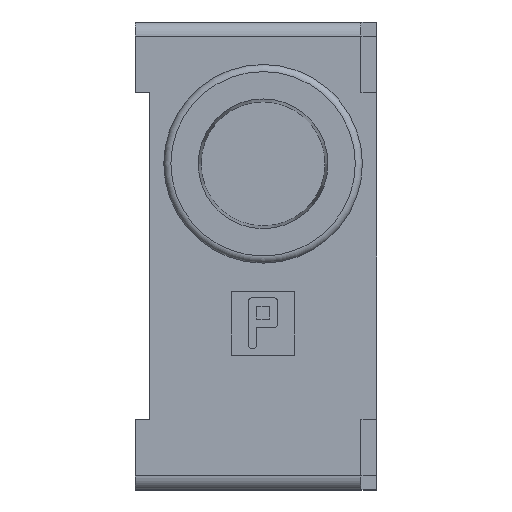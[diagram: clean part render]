
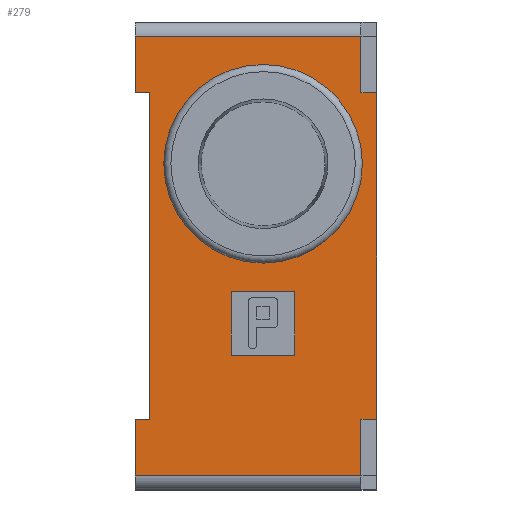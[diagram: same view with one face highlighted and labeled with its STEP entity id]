
A CAD part, left-side view. The second image highlights one B-rep face of the part: STEP entity #279.
In plain terms, the highlighted planar face has unit normal (-1, 0, 0).
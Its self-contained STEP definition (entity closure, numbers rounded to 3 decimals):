
#279=ADVANCED_FACE('',(#632,#633,#634),#635,.F.);
#632=FACE_BOUND('',#1213,.T.);
#633=FACE_OUTER_BOUND('',#1214,.T.);
#634=FACE_BOUND('',#1215,.T.);
#635=PLANE('',#1216);
#1213=EDGE_LOOP('',(#2249));
#1214=EDGE_LOOP('',(#2250,#2251,#2252,#2253,#2254,#2255,#2256,#2257,#2258,#2259,#2260,#2261));
#1215=EDGE_LOOP('',(#2262,#2263,#2264,#2265));
#1216=AXIS2_PLACEMENT_3D('',#2266,#2267,#2268);
#2249=ORIENTED_EDGE('',*,*,#4042,.F.);
#2250=ORIENTED_EDGE('',*,*,#4043,.F.);
#2251=ORIENTED_EDGE('',*,*,#4044,.T.);
#2252=ORIENTED_EDGE('',*,*,#3941,.T.);
#2253=ORIENTED_EDGE('',*,*,#4045,.F.);
#2254=ORIENTED_EDGE('',*,*,#4046,.T.);
#2255=ORIENTED_EDGE('',*,*,#3892,.T.);
#2256=ORIENTED_EDGE('',*,*,#4047,.F.);
#2257=ORIENTED_EDGE('',*,*,#4048,.F.);
#2258=ORIENTED_EDGE('',*,*,#3932,.T.);
#2259=ORIENTED_EDGE('',*,*,#4049,.T.);
#2260=ORIENTED_EDGE('',*,*,#4050,.T.);
#2261=ORIENTED_EDGE('',*,*,#3901,.F.);
#2262=ORIENTED_EDGE('',*,*,#3974,.T.);
#2263=ORIENTED_EDGE('',*,*,#3978,.T.);
#2264=ORIENTED_EDGE('',*,*,#4051,.T.);
#2265=ORIENTED_EDGE('',*,*,#4052,.T.);
#2266=CARTESIAN_POINT('',(9.0,13.556,44.778));
#2267=DIRECTION('',(1.0,0.0,0.0));
#2268=DIRECTION('',(0.0,0.0,-1.0));
#3892=EDGE_CURVE('',#4665,#4663,#4666,.T.);
#3901=EDGE_CURVE('',#4680,#4682,#4683,.T.);
#3932=EDGE_CURVE('',#4744,#4742,#4745,.T.);
#3941=EDGE_CURVE('',#4760,#4761,#4762,.F.);
#3974=EDGE_CURVE('',#4812,#4813,#4814,.T.);
#3978=EDGE_CURVE('',#4813,#4820,#4821,.T.);
#4042=EDGE_CURVE('',#4919,#4919,#4920,.T.);
#4043=EDGE_CURVE('',#4921,#4680,#4922,.T.);
#4044=EDGE_CURVE('',#4921,#4760,#4923,.T.);
#4045=EDGE_CURVE('',#4924,#4761,#4925,.T.);
#4046=EDGE_CURVE('',#4924,#4665,#4926,.T.);
#4047=EDGE_CURVE('',#4927,#4663,#4928,.T.);
#4048=EDGE_CURVE('',#4744,#4927,#4929,.T.);
#4049=EDGE_CURVE('',#4742,#4930,#4931,.T.);
#4050=EDGE_CURVE('',#4930,#4682,#4932,.T.);
#4051=EDGE_CURVE('',#4820,#4933,#4934,.T.);
#4052=EDGE_CURVE('',#4933,#4812,#4935,.T.);
#4663=VERTEX_POINT('',#6188);
#4665=VERTEX_POINT('',#6191);
#4666=LINE('',#6192,#6193);
#4680=VERTEX_POINT('',#6213);
#4682=VERTEX_POINT('',#6216);
#4683=LINE('',#6217,#6218);
#4742=VERTEX_POINT('',#6302);
#4744=VERTEX_POINT('',#6304);
#4745=LINE('',#6305,#6306);
#4760=VERTEX_POINT('',#6324);
#4761=VERTEX_POINT('',#6325);
#4762=LINE('',#6326,#6327);
#4812=VERTEX_POINT('',#6437);
#4813=VERTEX_POINT('',#6438);
#4814=LINE('',#6439,#6440);
#4820=VERTEX_POINT('',#6449);
#4821=LINE('',#6450,#6451);
#4919=VERTEX_POINT('',#6646);
#4920=CIRCLE('',#6647,7.0);
#4921=VERTEX_POINT('',#6648);
#4922=LINE('',#6649,#6650);
#4923=LINE('',#6651,#6652);
#4924=VERTEX_POINT('',#6653);
#4925=LINE('',#6654,#6655);
#4926=LINE('',#6656,#6657);
#4927=VERTEX_POINT('',#6658);
#4928=LINE('',#6659,#6660);
#4929=LINE('',#6661,#6662);
#4930=VERTEX_POINT('',#6663);
#4931=LINE('',#6664,#6665);
#4932=LINE('',#6666,#6667);
#4933=VERTEX_POINT('',#6668);
#4934=LINE('',#6669,#6670);
#4935=LINE('',#6671,#6672);
#6188=CARTESIAN_POINT('',(9.0,13.556,16.778));
#6191=CARTESIAN_POINT('',(9.0,13.556,39.778));
#6192=CARTESIAN_POINT('',(9.0,13.556,44.778));
#6193=VECTOR('',#7727,1.0);
#6213=CARTESIAN_POINT('',(9.0,-2.444,39.778));
#6216=CARTESIAN_POINT('',(9.0,-2.444,16.778));
#6217=CARTESIAN_POINT('',(9.0,-2.444,44.778));
#6218=VECTOR('',#7738,1.0);
#6302=CARTESIAN_POINT('',(9.,-1.344,12.778));
#6304=CARTESIAN_POINT('',(9.,14.556,12.778));
#6305=CARTESIAN_POINT('',(9.0,13.556,12.778));
#6306=VECTOR('',#7779,1.0);
#6324=CARTESIAN_POINT('',(9.0,-1.344,43.778));
#6325=CARTESIAN_POINT('',(9.0,14.556,43.778));
#6326=CARTESIAN_POINT('',(9.0,13.556,43.778));
#6327=VECTOR('',#7798,1.0);
#6437=CARTESIAN_POINT('',(9.0,7.806,21.278));
#6438=CARTESIAN_POINT('',(9.0,7.806,25.778));
#6439=CARTESIAN_POINT('',(9.0,7.806,21.278));
#6440=VECTOR('',#7840,1.0);
#6449=CARTESIAN_POINT('',(9.0,3.306,25.778));
#6450=CARTESIAN_POINT('',(9.0,7.806,25.778));
#6451=VECTOR('',#7844,1.0);
#6646=CARTESIAN_POINT('',(9.0,12.556,34.778));
#6647=AXIS2_PLACEMENT_3D('',#7927,#7928,#7929);
#6648=CARTESIAN_POINT('',(9.0,-1.344,39.778));
#6649=CARTESIAN_POINT('',(9.0,-1.344,39.778));
#6650=VECTOR('',#7930,1.0);
#6651=CARTESIAN_POINT('',(9.0,-1.344,39.778));
#6652=VECTOR('',#7931,1.0);
#6653=CARTESIAN_POINT('',(9.0,14.556,39.778));
#6654=CARTESIAN_POINT('',(9.0,14.556,39.778));
#6655=VECTOR('',#7932,1.0);
#6656=CARTESIAN_POINT('',(9.0,14.556,39.778));
#6657=VECTOR('',#7933,1.0);
#6658=CARTESIAN_POINT('',(9.0,14.556,16.778));
#6659=CARTESIAN_POINT('',(9.0,14.556,16.778));
#6660=VECTOR('',#7934,1.0);
#6661=CARTESIAN_POINT('',(9.0,14.556,12.778));
#6662=VECTOR('',#7935,1.0);
#6663=CARTESIAN_POINT('',(9.0,-1.344,16.778));
#6664=CARTESIAN_POINT('',(9.,-1.344,12.778));
#6665=VECTOR('',#7936,1.0);
#6666=CARTESIAN_POINT('',(9.0,-1.344,16.778));
#6667=VECTOR('',#7937,1.0);
#6668=CARTESIAN_POINT('',(9.0,3.306,21.278));
#6669=CARTESIAN_POINT('',(9.0,3.306,25.778));
#6670=VECTOR('',#7938,1.0);
#6671=CARTESIAN_POINT('',(9.0,3.306,21.278));
#6672=VECTOR('',#7939,1.0);
#7727=DIRECTION('',(0.0,0.0,-1.0));
#7738=DIRECTION('',(0.0,0.0,-1.0));
#7779=DIRECTION('',(0.0,-1.0,0.0));
#7798=DIRECTION('',(0.0,-1.0,0.0));
#7840=DIRECTION('',(0.0,0.,1.0));
#7844=DIRECTION('',(0.0,-1.0,0.0));
#7927=CARTESIAN_POINT('',(9.0,5.556,34.778));
#7928=DIRECTION('',(-1.0,0.0,0.0));
#7929=DIRECTION('',(0.0,1.0,0.0));
#7930=DIRECTION('',(0.0,-1.0,0.0));
#7931=DIRECTION('',(0.,0.0,1.0));
#7932=DIRECTION('',(0.,0.0,1.0));
#7933=DIRECTION('',(0.0,-1.0,0.0));
#7934=DIRECTION('',(0.0,-1.0,0.0));
#7935=DIRECTION('',(0.,0.0,1.0));
#7936=DIRECTION('',(0.,0.0,1.0));
#7937=DIRECTION('',(0.0,-1.0,0.0));
#7938=DIRECTION('',(0.0,0.0,-1.0));
#7939=DIRECTION('',(0.0,1.0,0.0));
